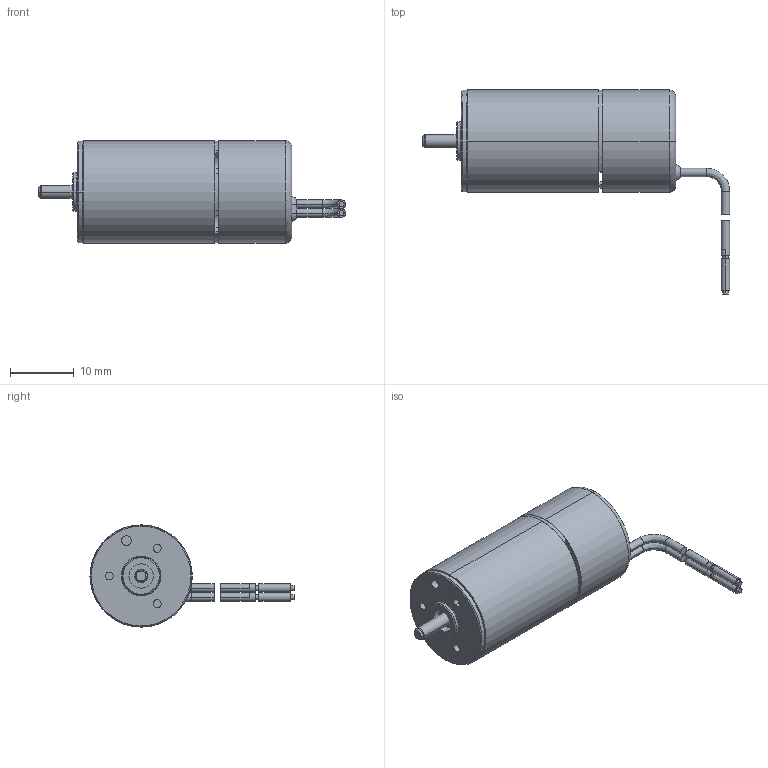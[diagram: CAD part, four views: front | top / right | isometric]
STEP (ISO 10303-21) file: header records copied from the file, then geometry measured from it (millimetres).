
FILE_DESCRIPTION((''),'2;1');
FILE_NAME('320816_EC-MAX16_2WIRE_5W','2016-10-14T',('mmagpetk'),(''),'CREO PARAMETRIC BY PTC INC, 2016050','CREO PARAMETRIC BY PTC INC, 2016050','');
FILE_SCHEMA(('CONFIG_CONTROL_DESIGN'));
Length unit declared in the file: millimetre
Products named in the file (1): 320816_EC-MAX16_2WIRE_5W
Bounding box: 48.05 x 31.9 x 16 mm (x, y, z)
Volume: 6788.1 mm3; surface area: 2435.6 mm2
Topology: 3 solids, 3 shells, 107 faces, 235 edges, 150 vertices
Faces by surface type: cylinder 53, plane 33, cone 8, torus 7, bspline 6
Entity records: 4001 total; most frequent: CARTESIAN_POINT 694, DIRECTION 570, ORIENTED_EDGE 470, AXIS2_PLACEMENT_3D 241, PRESENTATION_STYLE_ASSIGNMENT 240, STYLED_ITEM 238, CURVE_STYLE 235, EDGE_CURVE 235
